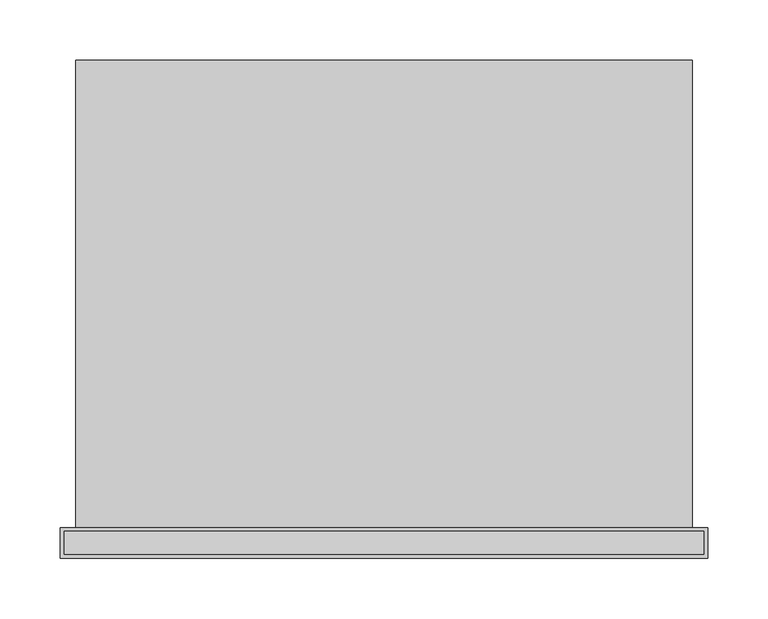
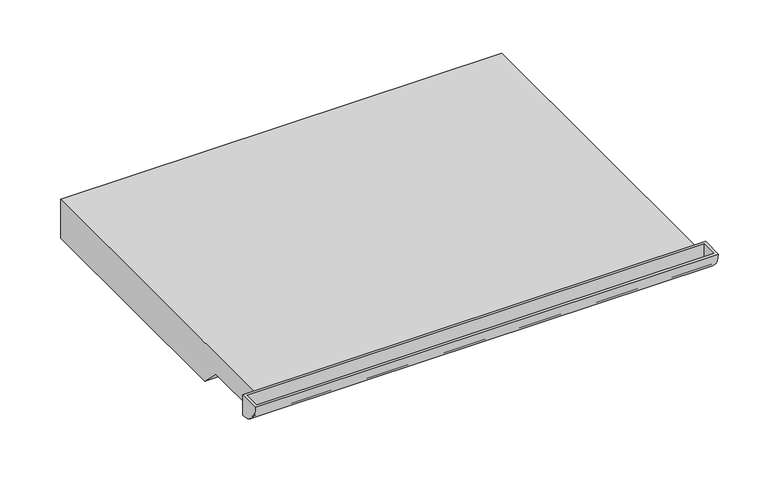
"""IFC4 building model written with IfcOpenShell, lengths in millimetres: furniture geometry."""

from ifc_helpers import new_model, si_unit, frame, origin, place, context, project, spatial, polyline, circle_curve, outline, extrude, source, transform, mapped, element, save
from ifc_brep_helpers import plane_surface, cylinder_surface, revolved_surface, advanced_brep


def furniture_5639b6dc(model_context):
    return source(origin(), model_context, "Body", "SolidModel", [
        advanced_brep(
        [(268.2875, -180.975, 704.85), (268.2875, -206.375, 704.85), (268.2875, -180.975, 679.45), (-268.2875, -180.975, 704.85), (-268.2875, -180.975, 679.45), (-268.2875, -206.375, 704.85), (265.1125, -184.15, 704.85), (265.1125, -203.2, 704.85), (-265.1125, -203.2, 704.85), (-265.1125, -184.15, 704.85), (265.1125, -184.15, 682.625), (-265.1125, -184.15, 682.625)],
        [
            (0, 1),
            (1, 2, circle_curve(frame((268.2875, -180.975, 704.85), z_axis=(1.0, 0.0, 0.0), x_axis=(0.0, 1.0, 0.0)), 25.4)),
            (2, 0),
            (3, 4),
            (4, 5, circle_curve(frame((-268.2875, -180.975, 704.85), z_axis=(-1.0, 0.0, 0.0), x_axis=(0.0, 1.0, 0.0)), 25.4)),
            (5, 3),
            (0, 3),
            (5, 1),
            (6, 7),
            (7, 8),
            (8, 9),
            (9, 6),
            (4, 2),
            (6, 10),
            (10, 7, circle_curve(frame((265.1125, -184.0825839, 701.9595709), z_axis=(-1.0, 0.0, 0.0), x_axis=(0.0, 1.0, 0.0)), 19.3346885)),
            (8, 11, circle_curve(frame((-265.1125, -184.0825839, 701.9595709), z_axis=(1.0, 0.0, 0.0), x_axis=(0.0, 1.0, 0.0)), 19.3346885)),
            (11, 9),
            (10, 11),
        ],
        [
            plane_surface(frame((268.2875, -206.375, 704.85), z_axis=(1.0, 0.0, 0.0), x_axis=(0.0, -1.0, 0.0))),
            plane_surface(frame((-268.2875, -206.375, 704.85), z_axis=(-1.0, 0.0, 0.0), x_axis=(0.0, 1.0, 0.0))),
            plane_surface(frame((268.2875, -180.975, 704.85), z_axis=(0.0, 0.0, 1.0), x_axis=(-1.0, 0.0, 0.0))),
            cylinder_surface(frame((-268.2875, -180.975, 704.85), z_axis=(1.0, 0.0, 0.0), x_axis=(0.0, 1.0, 0.0)), 25.4),
            plane_surface(frame((268.2875, -180.975, 679.45), z_axis=(0.0, 1.0, 0.0), x_axis=(-1.0, 0.0, 0.0))),
            plane_surface(frame((265.1125, -203.2, 704.85), z_axis=(-1.0, 0.0, 0.0), x_axis=(0.0, -1.0, -1.826094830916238e-12))),
            plane_surface(frame((-265.1125, -203.2, 704.85), z_axis=(1.0, 0.0, 0.0), x_axis=(0.0, 1.0, 1.826094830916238e-12))),
            revolved_surface(polyline([(265.1125, -164.7478954, 701.9595709), (-265.1125, -164.7478954, 701.9595709)]), (-265.1125, -184.0825839, 701.9595709), (1.0, 0.0, 0.0)),
            plane_surface(frame((265.1125, -184.15, 682.625), z_axis=(0.0, -1.0, 0.0), x_axis=(-1.0, 0.0, 0.0))),
        ],
        [
            (0, [[1, 2, 3]]),
            (1, [[4, 5, 6]]),
            (2, [[-1, 7, -6, 8], [9, 10, 11, 12]]),
            (3, [[-2, -8, -5, 13]]),
            (4, [[-3, -13, -4, -7]]),
            (5, [[14, 15, -9]]),
            (6, [[16, 17, -11]]),
            (7, [[-15, 18, -16, -10]]),
            (8, [[-14, -12, -17, -18]]),
        ],
    ),
        extrude(outline(polyline([(206.375, 704.85), (206.375, 657.225), (-82.55, 657.225), (-104.775, 679.45), (-180.975, 679.45), (-180.975, 704.85), (206.375, 704.85)])), frame((-255.5875, 0.0, 0.0), z_axis=(1.0, 0.0, 0.0), x_axis=(0.0, 1.0, 0.0)), (0.0, 0.0, 1.0), 511.175),
    ])


if __name__ == "__main__":
    model = new_model("IFC4")
    model_context = context("Model", 3, world=origin())
    ifc_project = project(units=[si_unit("LENGTHUNIT", "METRE", prefix="MILLI")], contexts=[model_context])
    site = spatial("IfcSite", under=ifc_project)
    building = spatial("IfcBuilding", under=site)
    placement = place(None, origin())
    furniture_shape = furniture_5639b6dc(model_context)
    element("IfcFurniture", 1, ObjectType="HermanMiller_ThrivePortfolio_Y5010_PencilDrawer : 2\"H x 16\"D x 21\"W", at=placement, inside=building, context=model_context, shape_type="MappedRepresentation", body=[
        mapped(furniture_shape, transform((0.0, 0.0, 0.0), x_axis=(1.0, 0.0, 0.0), y_axis=(0.0, 1.0, 0.0), z_axis=(0.0, 0.0, 1.0))),
    ])
    save(model, "model.ifc")
